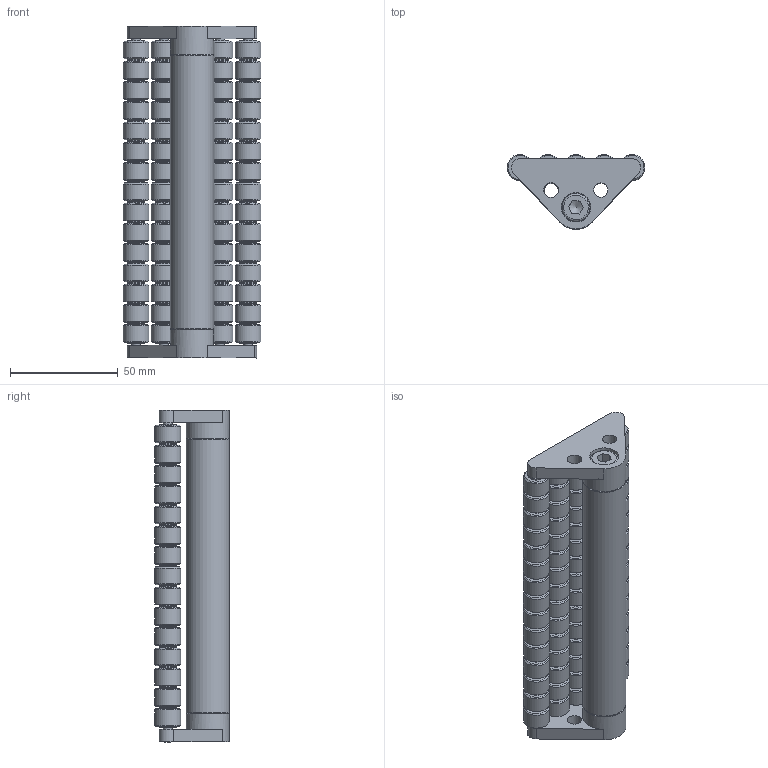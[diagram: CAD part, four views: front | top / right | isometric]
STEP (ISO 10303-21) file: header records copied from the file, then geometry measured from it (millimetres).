
FILE_DESCRIPTION(/* description */ ('RULLÖVERGÅNG STD S540'),/* implementation_level */ '2;1');
FILE_NAME(/* name */ '500-7020.stp',/* time_stamp */ '2022-09-22T10:30:16+02:00',/* author */ ('MD'),/* organization */ ('CARRYLINE'),/* preprocessor_version */ 'ST-DEVELOPER v19.2',/* originating_system */ 'Autodesk Inventor 2023',/* authorisation */ '');
FILE_SCHEMA (('AUTOMOTIVE_DESIGN { 1 0 10303 214 3 1 1 }'));
Length unit declared in the file: millimetre
Products named in the file (6): 500-7020; 15960; 13052_1; 13052_4; 5510-820; 15959
Assembly tree (85 placements, depth 2):
  500-7020
    15960  x2
    13052_1  x5
    13052_4
    5510-820  x2
    15959  x75
Bounding box: 63.99 x 34.49 x 154 mm (x, y, z)
Volume: 129930.1 mm3; surface area: 77473.8 mm2
Topology: 85 solids, 85 shells, 862 faces, 1418 edges, 890 vertices
Faces by surface type: plane 354, cylinder 334, cone 170, torus 4
Full cylindrical faces by diameter (mm): 4 x90, 6.647 x4, 6.912 x2, 7.8 x150, 8 x4, 12 x75, 13 x2, 20 x3
Entity records: 2511 total; most frequent: DIRECTION 480, CARTESIAN_POINT 367, ORIENTED_EDGE 240, AXIS2_PLACEMENT_3D 213, EDGE_CURVE 120, PRODUCT_DEFINITION_SHAPE 91, ITEM_DEFINED_TRANSFORMATION 85, CONTEXT_DEPENDENT_SHAPE_REPRESENTATION 85
